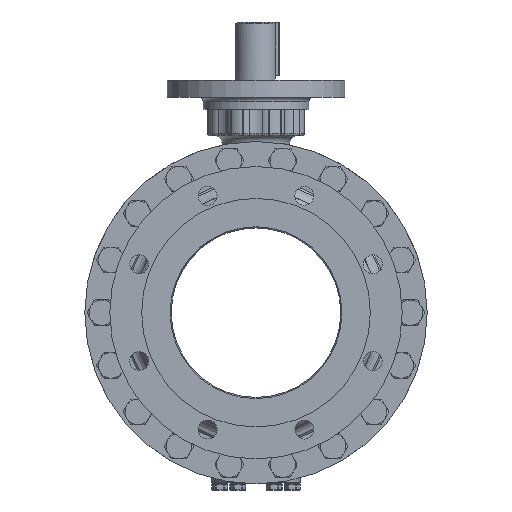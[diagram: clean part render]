
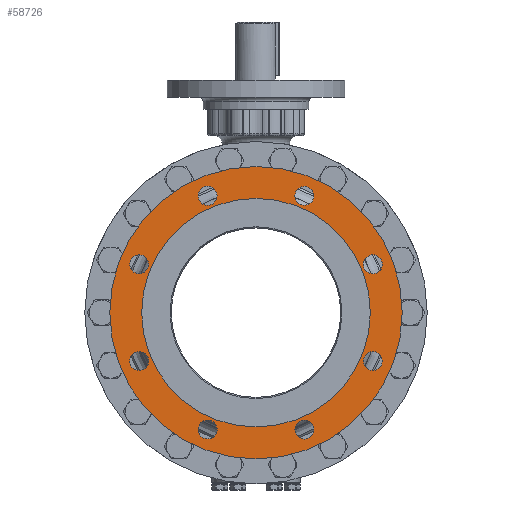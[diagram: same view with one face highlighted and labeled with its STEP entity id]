
A CAD part, left-side view. The second image highlights one B-rep face of the part: STEP entity #58726.
In plain terms, the highlighted planar face has unit normal (-1, 0, 0).
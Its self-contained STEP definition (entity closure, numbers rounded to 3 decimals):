
#4005=CARTESIAN_POINT('',(-227.,0.,0.));
#4006=DIRECTION('',(1.,0.,0.));
#4007=DIRECTION('',(0.,0.,1.));
#4008=AXIS2_PLACEMENT_3D('',#4005,#4006,#4007);
#4010=CARTESIAN_POINT('',(-227.,0.,0.));
#4011=DIRECTION('',(-1.,0.,0.));
#4012=DIRECTION('',(0.,0.,1.));
#4013=AXIS2_PLACEMENT_3D('',#4010,#4011,#4012);
#4015=CARTESIAN_POINT('',(-227.,0.,0.));
#4016=DIRECTION('',(1.,0.,0.));
#4017=DIRECTION('',(0.,0.,1.));
#4018=AXIS2_PLACEMENT_3D('',#4015,#4016,#4017);
#4020=CARTESIAN_POINT('',(-227.,0.,0.));
#4021=DIRECTION('',(-1.,0.,0.));
#4022=DIRECTION('',(0.,0.,1.));
#4023=AXIS2_PLACEMENT_3D('',#4020,#4021,#4022);
#4025=CARTESIAN_POINT('',(-227.,57.116,137.889));
#4026=DIRECTION('',(-1.,0.,0.));
#4027=DIRECTION('',(0.,-1.,0.));
#4028=AXIS2_PLACEMENT_3D('',#4025,#4026,#4027);
#4030=CARTESIAN_POINT('',(-227.,57.116,137.889));
#4031=DIRECTION('',(-1.,0.,0.));
#4032=DIRECTION('',(0.,1.,0.));
#4033=AXIS2_PLACEMENT_3D('',#4030,#4031,#4032);
#4035=CARTESIAN_POINT('',(-227.,137.889,57.116));
#4036=DIRECTION('',(-1.,0.,0.));
#4037=DIRECTION('',(0.,-0.707,0.707));
#4038=AXIS2_PLACEMENT_3D('',#4035,#4036,#4037);
#4040=CARTESIAN_POINT('',(-227.,137.889,57.116));
#4041=DIRECTION('',(-1.,0.,0.));
#4042=DIRECTION('',(0.,0.707,-0.707));
#4043=AXIS2_PLACEMENT_3D('',#4040,#4041,#4042);
#4045=CARTESIAN_POINT('',(-227.,137.889,-57.116));
#4046=DIRECTION('',(-1.,0.,0.));
#4047=DIRECTION('',(0.,0.,1.));
#4048=AXIS2_PLACEMENT_3D('',#4045,#4046,#4047);
#4050=CARTESIAN_POINT('',(-227.,137.889,-57.116));
#4051=DIRECTION('',(-1.,0.,0.));
#4052=DIRECTION('',(0.,0.,-1.));
#4053=AXIS2_PLACEMENT_3D('',#4050,#4051,#4052);
#4055=CARTESIAN_POINT('',(-227.,57.116,-137.889));
#4056=DIRECTION('',(-1.,0.,0.));
#4057=DIRECTION('',(0.,0.707,0.707));
#4058=AXIS2_PLACEMENT_3D('',#4055,#4056,#4057);
#4060=CARTESIAN_POINT('',(-227.,57.116,-137.889));
#4061=DIRECTION('',(-1.,0.,0.));
#4062=DIRECTION('',(0.,-0.707,-0.707));
#4063=AXIS2_PLACEMENT_3D('',#4060,#4061,#4062);
#4065=CARTESIAN_POINT('',(-227.,-57.116,-137.889));
#4066=DIRECTION('',(-1.,0.,0.));
#4067=DIRECTION('',(0.,1.,0.));
#4068=AXIS2_PLACEMENT_3D('',#4065,#4066,#4067);
#4070=CARTESIAN_POINT('',(-227.,-57.116,-137.889));
#4071=DIRECTION('',(-1.,0.,0.));
#4072=DIRECTION('',(0.,-1.,0.));
#4073=AXIS2_PLACEMENT_3D('',#4070,#4071,#4072);
#4075=CARTESIAN_POINT('',(-227.,-137.889,-57.116));
#4076=DIRECTION('',(-1.,0.,0.));
#4077=DIRECTION('',(0.,0.707,-0.707));
#4078=AXIS2_PLACEMENT_3D('',#4075,#4076,#4077);
#4080=CARTESIAN_POINT('',(-227.,-137.889,-57.116));
#4081=DIRECTION('',(-1.,0.,0.));
#4082=DIRECTION('',(0.,-0.707,0.707));
#4083=AXIS2_PLACEMENT_3D('',#4080,#4081,#4082);
#4085=CARTESIAN_POINT('',(-227.,-137.889,57.116));
#4086=DIRECTION('',(-1.,0.,0.));
#4087=DIRECTION('',(0.,0.,-1.));
#4088=AXIS2_PLACEMENT_3D('',#4085,#4086,#4087);
#4090=CARTESIAN_POINT('',(-227.,-137.889,57.116));
#4091=DIRECTION('',(-1.,0.,0.));
#4092=DIRECTION('',(0.,0.,1.));
#4093=AXIS2_PLACEMENT_3D('',#4090,#4091,#4092);
#4095=CARTESIAN_POINT('',(-227.,-57.116,137.889));
#4096=DIRECTION('',(-1.,0.,0.));
#4097=DIRECTION('',(0.,-0.707,-0.707));
#4098=AXIS2_PLACEMENT_3D('',#4095,#4096,#4097);
#4100=CARTESIAN_POINT('',(-227.,-57.116,137.889));
#4101=DIRECTION('',(-1.,0.,0.));
#4102=DIRECTION('',(0.,0.707,0.707));
#4103=AXIS2_PLACEMENT_3D('',#4100,#4101,#4102);
#48770=CARTESIAN_POINT('',(-227.,0.,172.5));
#48772=VERTEX_POINT('',#48770);
#48778=CARTESIAN_POINT('',(-227.,0.,-172.5));
#48780=VERTEX_POINT('',#48778);
#48810=CARTESIAN_POINT('',(-227.,45.966,137.889));
#48811=VERTEX_POINT('',#48810);
#48812=CARTESIAN_POINT('',(-227.,68.266,137.889));
#48813=VERTEX_POINT('',#48812);
#48818=CARTESIAN_POINT('',(-227.,130.005,65.));
#48819=VERTEX_POINT('',#48818);
#48820=CARTESIAN_POINT('',(-227.,145.773,49.231));
#48821=VERTEX_POINT('',#48820);
#48826=CARTESIAN_POINT('',(-227.,137.889,-45.966));
#48827=VERTEX_POINT('',#48826);
#48828=CARTESIAN_POINT('',(-227.,137.889,-68.266));
#48829=VERTEX_POINT('',#48828);
#48834=CARTESIAN_POINT('',(-227.,65.,-130.005));
#48835=VERTEX_POINT('',#48834);
#48836=CARTESIAN_POINT('',(-227.,49.231,-145.773));
#48837=VERTEX_POINT('',#48836);
#48842=CARTESIAN_POINT('',(-227.,-45.966,-137.889));
#48843=VERTEX_POINT('',#48842);
#48844=CARTESIAN_POINT('',(-227.,-68.266,-137.889));
#48845=VERTEX_POINT('',#48844);
#48850=CARTESIAN_POINT('',(-227.,-130.005,-65.));
#48851=VERTEX_POINT('',#48850);
#48852=CARTESIAN_POINT('',(-227.,-145.773,-49.231));
#48853=VERTEX_POINT('',#48852);
#48858=CARTESIAN_POINT('',(-227.,-137.889,45.966));
#48859=VERTEX_POINT('',#48858);
#48860=CARTESIAN_POINT('',(-227.,-137.889,68.266));
#48861=VERTEX_POINT('',#48860);
#48866=CARTESIAN_POINT('',(-227.,-65.,130.005));
#48867=VERTEX_POINT('',#48866);
#48868=CARTESIAN_POINT('',(-227.,-49.231,145.773));
#48869=VERTEX_POINT('',#48868);
#48871=CARTESIAN_POINT('',(-227.,0.,134.85));
#48873=VERTEX_POINT('',#48871);
#48875=CARTESIAN_POINT('',(-227.,0.,-134.85));
#48877=VERTEX_POINT('',#48875);
#58663=CARTESIAN_POINT('',(-227.,0.,0.));
#58664=DIRECTION('',(-1.,0.,0.));
#58665=DIRECTION('',(0.,0.,-1.));
#58666=AXIS2_PLACEMENT_3D('',#58663,#58664,#58665);
#58667=PLANE('',#58666);
#58668=ORIENTED_EDGE('',*,*,#58656,.F.);
#58669=ORIENTED_EDGE('',*,*,#58645,.T.);
#58670=EDGE_LOOP('',(#58668,#58669));
#58671=FACE_OUTER_BOUND('',#58670,.F.);
#58673=ORIENTED_EDGE('',*,*,#58672,.F.);
#58675=ORIENTED_EDGE('',*,*,#58674,.T.);
#58676=EDGE_LOOP('',(#58673,#58675));
#58677=FACE_BOUND('',#58676,.F.);
#58679=ORIENTED_EDGE('',*,*,#58678,.T.);
#58681=ORIENTED_EDGE('',*,*,#58680,.T.);
#58682=EDGE_LOOP('',(#58679,#58681));
#58683=FACE_BOUND('',#58682,.F.);
#58685=ORIENTED_EDGE('',*,*,#58684,.T.);
#58687=ORIENTED_EDGE('',*,*,#58686,.T.);
#58688=EDGE_LOOP('',(#58685,#58687));
#58689=FACE_BOUND('',#58688,.F.);
#58691=ORIENTED_EDGE('',*,*,#58690,.T.);
#58693=ORIENTED_EDGE('',*,*,#58692,.T.);
#58694=EDGE_LOOP('',(#58691,#58693));
#58695=FACE_BOUND('',#58694,.F.);
#58697=ORIENTED_EDGE('',*,*,#58696,.T.);
#58699=ORIENTED_EDGE('',*,*,#58698,.T.);
#58700=EDGE_LOOP('',(#58697,#58699));
#58701=FACE_BOUND('',#58700,.F.);
#58703=ORIENTED_EDGE('',*,*,#58702,.T.);
#58705=ORIENTED_EDGE('',*,*,#58704,.T.);
#58706=EDGE_LOOP('',(#58703,#58705));
#58707=FACE_BOUND('',#58706,.F.);
#58709=ORIENTED_EDGE('',*,*,#58708,.T.);
#58711=ORIENTED_EDGE('',*,*,#58710,.T.);
#58712=EDGE_LOOP('',(#58709,#58711));
#58713=FACE_BOUND('',#58712,.F.);
#58715=ORIENTED_EDGE('',*,*,#58714,.T.);
#58717=ORIENTED_EDGE('',*,*,#58716,.T.);
#58718=EDGE_LOOP('',(#58715,#58717));
#58719=FACE_BOUND('',#58718,.F.);
#58721=ORIENTED_EDGE('',*,*,#58720,.T.);
#58723=ORIENTED_EDGE('',*,*,#58722,.T.);
#58724=EDGE_LOOP('',(#58721,#58723));
#58725=FACE_BOUND('',#58724,.F.);
#58726=ADVANCED_FACE('',(#58671,#58677,#58683,#58689,#58695,#58701,#58707,
#58713,#58719,#58725),#58667,.T.);
#4009=CIRCLE('',#4008,172.5);
#4014=CIRCLE('',#4013,172.5);
#4019=CIRCLE('',#4018,134.85);
#4024=CIRCLE('',#4023,134.85);
#4029=CIRCLE('',#4028,11.15);
#4034=CIRCLE('',#4033,11.15);
#4039=CIRCLE('',#4038,11.15);
#4044=CIRCLE('',#4043,11.15);
#4049=CIRCLE('',#4048,11.15);
#4054=CIRCLE('',#4053,11.15);
#4059=CIRCLE('',#4058,11.15);
#4064=CIRCLE('',#4063,11.15);
#4069=CIRCLE('',#4068,11.15);
#4074=CIRCLE('',#4073,11.15);
#4079=CIRCLE('',#4078,11.15);
#4084=CIRCLE('',#4083,11.15);
#4089=CIRCLE('',#4088,11.15);
#4094=CIRCLE('',#4093,11.15);
#4099=CIRCLE('',#4098,11.15);
#4104=CIRCLE('',#4103,11.15);
#58645=EDGE_CURVE('',#48772,#48780,#4009,.T.);
#58656=EDGE_CURVE('',#48772,#48780,#4014,.T.);
#58672=EDGE_CURVE('',#48873,#48877,#4019,.T.);
#58674=EDGE_CURVE('',#48873,#48877,#4024,.T.);
#58678=EDGE_CURVE('',#48811,#48813,#4029,.T.);
#58680=EDGE_CURVE('',#48813,#48811,#4034,.T.);
#58684=EDGE_CURVE('',#48819,#48821,#4039,.T.);
#58686=EDGE_CURVE('',#48821,#48819,#4044,.T.);
#58690=EDGE_CURVE('',#48827,#48829,#4049,.T.);
#58692=EDGE_CURVE('',#48829,#48827,#4054,.T.);
#58696=EDGE_CURVE('',#48835,#48837,#4059,.T.);
#58698=EDGE_CURVE('',#48837,#48835,#4064,.T.);
#58702=EDGE_CURVE('',#48843,#48845,#4069,.T.);
#58704=EDGE_CURVE('',#48845,#48843,#4074,.T.);
#58708=EDGE_CURVE('',#48851,#48853,#4079,.T.);
#58710=EDGE_CURVE('',#48853,#48851,#4084,.T.);
#58714=EDGE_CURVE('',#48859,#48861,#4089,.T.);
#58716=EDGE_CURVE('',#48861,#48859,#4094,.T.);
#58720=EDGE_CURVE('',#48867,#48869,#4099,.T.);
#58722=EDGE_CURVE('',#48869,#48867,#4104,.T.);
